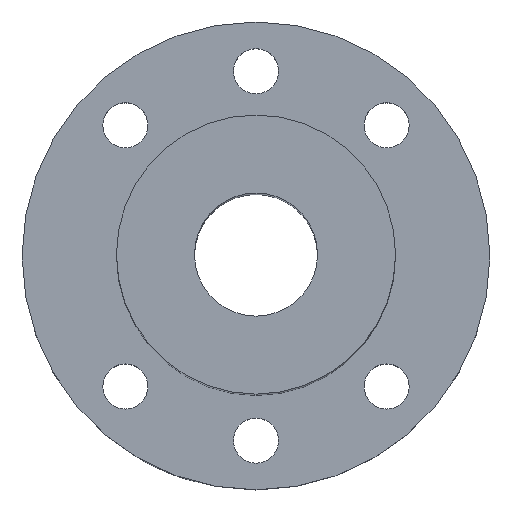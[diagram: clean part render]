
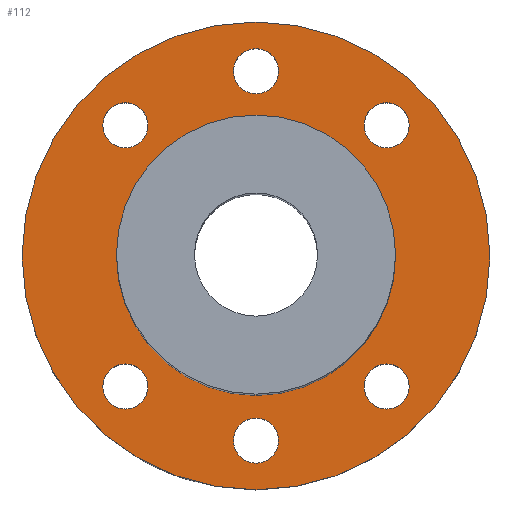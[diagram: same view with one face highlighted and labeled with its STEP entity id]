
A CAD part, top view. The second image highlights one B-rep face of the part: STEP entity #112.
In plain terms, the highlighted planar face has unit normal (0, 0, 1).
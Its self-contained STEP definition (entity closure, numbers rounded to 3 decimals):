
#99=PLANE('',#355);
#112=ADVANCED_FACE('',(#159,#160,#161,#162,#163,#164,#165,#166),#99,.T.);
#159=FACE_BOUND('',#203,.T.);
#160=FACE_BOUND('',#204,.T.);
#161=FACE_BOUND('',#205,.T.);
#162=FACE_BOUND('',#206,.T.);
#163=FACE_BOUND('',#207,.T.);
#164=FACE_BOUND('',#208,.T.);
#165=FACE_BOUND('',#209,.T.);
#166=FACE_BOUND('',#210,.T.);
#203=EDGE_LOOP('',(#247));
#204=EDGE_LOOP('',(#248));
#205=EDGE_LOOP('',(#249));
#206=EDGE_LOOP('',(#250));
#207=EDGE_LOOP('',(#251));
#208=EDGE_LOOP('',(#252));
#209=EDGE_LOOP('',(#253));
#210=EDGE_LOOP('',(#254));
#247=ORIENTED_EDGE('',*,*,#284,.T.);
#248=ORIENTED_EDGE('',*,*,#301,.F.);
#249=ORIENTED_EDGE('',*,*,#300,.F.);
#250=ORIENTED_EDGE('',*,*,#299,.T.);
#251=ORIENTED_EDGE('',*,*,#286,.T.);
#252=ORIENTED_EDGE('',*,*,#298,.F.);
#253=ORIENTED_EDGE('',*,*,#297,.T.);
#254=ORIENTED_EDGE('',*,*,#302,.T.);
#262=VERTEX_POINT('',#437);
#264=VERTEX_POINT('',#499);
#275=VERTEX_POINT('',#582);
#276=VERTEX_POINT('',#585);
#277=VERTEX_POINT('',#588);
#278=VERTEX_POINT('',#591);
#279=VERTEX_POINT('',#594);
#280=VERTEX_POINT('',#597);
#284=EDGE_CURVE('',#262,#262,#306,.T.);
#286=EDGE_CURVE('',#264,#264,#307,.T.);
#297=EDGE_CURVE('',#275,#275,#317,.T.);
#298=EDGE_CURVE('',#276,#276,#318,.T.);
#299=EDGE_CURVE('',#277,#277,#319,.T.);
#300=EDGE_CURVE('',#278,#278,#320,.T.);
#301=EDGE_CURVE('',#279,#279,#321,.T.);
#302=EDGE_CURVE('',#280,#280,#322,.T.);
#306=CIRCLE('',#327,28.5);
#307=CIRCLE('',#329,17.);
#317=CIRCLE('',#343,2.75);
#318=CIRCLE('',#345,2.75);
#319=CIRCLE('',#347,2.75);
#320=CIRCLE('',#349,2.75);
#321=CIRCLE('',#351,2.75);
#322=CIRCLE('',#353,2.75);
#327=AXIS2_PLACEMENT_3D('',#436,#365,#366);
#329=AXIS2_PLACEMENT_3D('',#498,#369,#370);
#343=AXIS2_PLACEMENT_3D('',#581,#397,#398);
#345=AXIS2_PLACEMENT_3D('',#584,#401,#402);
#347=AXIS2_PLACEMENT_3D('',#587,#405,#406);
#349=AXIS2_PLACEMENT_3D('',#590,#409,#410);
#351=AXIS2_PLACEMENT_3D('',#593,#413,#414);
#353=AXIS2_PLACEMENT_3D('',#596,#417,#418);
#355=AXIS2_PLACEMENT_3D('',#599,#421,#422);
#365=DIRECTION('',(0.,0.,1.));
#366=DIRECTION('',(1.,0.,0.));
#369=DIRECTION('',(0.,0.,-1.));
#370=DIRECTION('',(1.,0.,0.));
#397=DIRECTION('',(0.,0.,-1.));
#398=DIRECTION('',(1.,0.,0.));
#401=DIRECTION('',(0.,0.,1.));
#402=DIRECTION('',(1.,0.,0.));
#405=DIRECTION('',(0.,0.,-1.));
#406=DIRECTION('',(1.,0.,0.));
#409=DIRECTION('',(0.,0.,1.));
#410=DIRECTION('',(-1.,0.,0.));
#413=DIRECTION('',(0.,0.,1.));
#414=DIRECTION('',(1.,0.,0.));
#417=DIRECTION('',(0.,0.,-1.));
#418=DIRECTION('',(-1.,0.,0.));
#421=DIRECTION('',(0.,0.,1.));
#422=DIRECTION('',(1.,0.,0.));
#436=CARTESIAN_POINT('',(0.,0.,10.));
#437=CARTESIAN_POINT('',(28.5,0.,10.));
#498=CARTESIAN_POINT('',(0.,0.,10.));
#499=CARTESIAN_POINT('',(17.,0.,10.));
#581=CARTESIAN_POINT('',(0.,-22.5,10.));
#582=CARTESIAN_POINT('',(2.75,-22.5,10.));
#584=CARTESIAN_POINT('',(-15.91,15.91,10.));
#585=CARTESIAN_POINT('',(-13.16,15.91,10.));
#587=CARTESIAN_POINT('',(-15.91,-15.91,10.));
#588=CARTESIAN_POINT('',(-13.16,-15.91,10.));
#590=CARTESIAN_POINT('',(15.91,-15.91,10.));
#591=CARTESIAN_POINT('',(13.16,-15.91,10.));
#593=CARTESIAN_POINT('',(0.,22.5,10.));
#594=CARTESIAN_POINT('',(2.75,22.5,10.));
#596=CARTESIAN_POINT('',(15.91,15.91,10.));
#597=CARTESIAN_POINT('',(13.16,15.91,10.));
#599=CARTESIAN_POINT('',(0.,11.25,10.));
